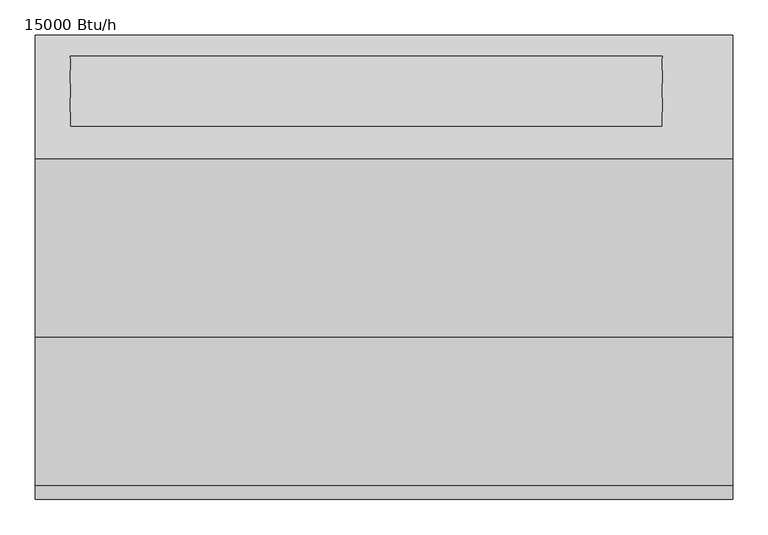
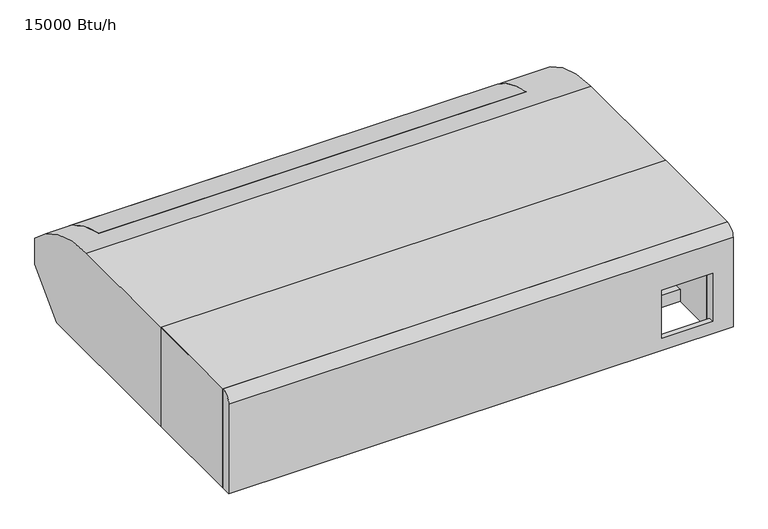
"""IFC4 building model written with IfcOpenShell, lengths in millimetres: proxy geometry, Lennox-VRF-Ceiling_Floor_Mount-VCFA-2P_Series : 15000 Btu/h."""

from ifc_helpers import new_model, si_unit, point, frame, frame_2d, origin, place, context, project, spatial, polyline, circle_curve, trimmed, segment, composite_curve, outline, extrude, faceted_brep, source, transform, mapped, element, save
from ifc_brep_helpers import plane_surface, cylinder_surface, advanced_brep


def proxy_15000_btu_h_a17ee8bb(model_context):
    return source(origin(), model_context, "Body", "SolidModel", [
        faceted_brep([(495.5, 230.0, 206.0), (495.5, 20.0, 206.0), (495.5, 20.0, 0.0), (495.5, 230.0, 0.0), (-495.5, 230.0, 206.0), (-495.5, 230.0, 0.0), (-495.5, 20.0, 0.0), (-495.5, 20.0, 206.0), (355.5, 20.0, 0.0), (355.5, 20.0, 125.0), (455.5, 20.0, 125.0), (455.5, 20.0, 0.0), (455.5, 110.0, 0.0), (355.5, 110.0, 0.0), (355.5, 184.8703415, 125.0), (455.5, 184.8703415, 125.0), (455.5, 110.0, 25.0), (355.5, 110.0, 25.0), (355.5, 184.8703415, 25.0), (455.5, 184.8703415, 25.0)], [[[0, 1, 2, 3]], [[4, 5, 6, 7]], [[1, 0, 4, 7]], [[2, 1, 7, 6, 8, 9, 10, 11]], [[3, 2, 11, 12, 13, 8, 6, 5]], [[0, 3, 5, 4]], [[10, 9, 14, 15]], [[13, 12, 16, 17]], [[14, 9, 8, 13, 17, 18]], [[10, 15, 19, 16, 12, 11]], [[15, 14, 18, 19]], [[19, 18, 17, 16]]]),
        extrude(outline(composite_curve([segment(trimmed(circle_curve(frame_2d((97.0, 440.5)), 6.35), [point((97.0, 434.15))], [point((97.0, 446.85))], False, "CARTESIAN"), True, "CONTINUOUS"), segment(trimmed(circle_curve(frame_2d((97.0, 440.5)), 6.35), [point((97.0, 446.85))], [point((97.0, 434.15))], False, "CARTESIAN"), True, "CONTINUOUS")], self_intersect=False)), frame((0.0, 134.0, 0.0), z_axis=(0.0, 1.0, 0.0), x_axis=(0.0, 0.0, 1.0)), (0.0, 0.0, 1.0), 90.0),
        extrude(outline(composite_curve([segment(trimmed(circle_curve(frame_2d((64.0, 434.5)), 3.175), [point((64.0, 437.675))], [point((64.0, 431.325))], False, "CARTESIAN"), True, "CONTINUOUS"), segment(trimmed(circle_curve(frame_2d((64.0, 434.5)), 3.175), [point((64.0, 431.325))], [point((64.0, 437.675))], False, "CARTESIAN"), True, "CONTINUOUS")], self_intersect=False)), frame((0.0, 98.0, 0.0), z_axis=(0.0, 1.0, 0.0), x_axis=(0.0, 0.0, 1.0)), (0.0, 0.0, 1.0), 125.0),
        advanced_brep(
        [(495.5, 0.0, 186.0), (495.5, 0.0, 0.0), (495.5, 585.0, 0.0), (495.5, 660.0, 76.0), (495.5, 660.0, 130.0), (495.5, 484.7744311, 206.0), (495.5, 20.0, 206.0), (-495.5, 0.0, 186.0), (-495.5, 20.0, 206.0), (-495.5, 484.7744311, 206.0), (-495.5, 660.0, 130.0), (-495.5, 660.0, 76.0), (-495.5, 585.0, 0.0), (-495.5, 0.0, 0.0), (355.5, 0.0, 125.0), (455.5, 0.0, 125.0), (455.5, 0.0, 25.0), (355.5, 0.0, 25.0), (455.5, 110.0, 0.0), (355.5, 110.0, 0.0), (355.5, 10.0, 0.0), (455.5, 10.0, 0.0), (-445.5, 630.0, 157.0746821), (395.5, 630.0, 157.0746821), (395.5, 530.0, 201.700335), (-445.5, 530.0, 201.700335), (395.5, 630.0, 103.0), (-445.5, 630.0, 103.0), (-445.5, 530.0, 103.0), (395.5, 530.0, 103.0), (455.5, 184.8703415, 125.0), (355.5, 184.8703415, 125.0), (355.5, 184.8703415, 25.0), (455.5, 184.8703415, 25.0), (355.5, 10.0, 25.0), (355.5, 110.0, 25.0), (455.5, 10.0, 25.0), (455.5, 110.0, 25.0)],
        [
            (0, 1),
            (1, 2),
            (2, 3),
            (3, 4),
            (4, 5, circle_curve(frame((495.5, 484.7744311, -34.0), z_axis=(1.0, 0.0, 0.0), x_axis=(0.0, 1.0, 0.0)), 240.0)),
            (5, 6),
            (6, 0, circle_curve(frame((495.5, 20.0, 186.0), z_axis=(1.0, 0.0, 0.0), x_axis=(0.0, 1.0, 0.0)), 20.0)),
            (7, 8, circle_curve(frame((-495.5, 20.0, 186.0), z_axis=(-1.0, 0.0, 0.0), x_axis=(0.0, 1.0, 0.0)), 20.0)),
            (8, 9),
            (9, 10, circle_curve(frame((-495.5, 484.7744311, -34.0), z_axis=(-1.0, 0.0, 0.0), x_axis=(0.0, 1.0, 0.0)), 240.0)),
            (10, 11),
            (11, 12),
            (12, 13),
            (13, 7),
            (0, 7),
            (13, 1),
            (14, 15),
            (15, 16),
            (16, 17),
            (17, 14),
            (12, 2),
            (18, 19),
            (19, 20),
            (20, 21),
            (21, 18),
            (11, 3),
            (10, 4),
            (9, 5),
            (22, 23),
            (23, 24, circle_curve(frame((395.5, 484.7744311, -34.0), z_axis=(1.0, 0.0, 0.0), x_axis=(0.0, 1.0, 0.0)), 240.0)),
            (24, 25),
            (25, 22, circle_curve(frame((-445.5, 484.7744311, -34.0), z_axis=(-1.0, 0.0, 0.0), x_axis=(0.0, 1.0, 0.0)), 240.0)),
            (8, 6),
            (26, 27),
            (27, 28),
            (28, 29),
            (29, 26),
            (26, 23),
            (22, 27),
            (25, 28),
            (24, 29),
            (30, 31),
            (31, 32),
            (32, 33),
            (33, 30),
            (14, 31),
            (30, 15),
            (17, 34),
            (34, 20),
            (19, 35),
            (35, 32),
            (16, 36),
            (36, 34),
            (35, 37),
            (37, 33),
            (37, 18),
            (21, 36),
        ],
        [
            plane_surface(frame((495.5, 0.0, 0.0), z_axis=(1.0, 0.0, 0.0), x_axis=(0.0, 0.0, -1.0))),
            plane_surface(frame((-495.5, 0.0, 0.0), z_axis=(-1.0, 0.0, 0.0), x_axis=(0.0, 0.0, 1.0))),
            plane_surface(frame((495.5, 0.0, 186.0), z_axis=(0.0, -1.0, 0.0), x_axis=(-1.0, 0.0, 0.0))),
            plane_surface(frame((495.5, 0.0, 0.0), z_axis=(0.0, 0.0, -1.0), x_axis=(-1.0, 0.0, 0.0))),
            plane_surface(frame((495.5, 585.0, 0.0), z_axis=(0.0, 0.7117739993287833, -0.7024085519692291), x_axis=(-1.0, 0.0, 0.0))),
            plane_surface(frame((495.5, 660.0, 76.0), z_axis=(0.0, 1.0, 0.0), x_axis=(-1.0, 0.0, 0.0))),
            cylinder_surface(frame((-495.5, 484.7744311, -34.0), z_axis=(1.0, 0.0, 0.0), x_axis=(0.0, 1.0, 0.0)), 240.0),
            plane_surface(frame((495.5, 484.7744311, 206.0), z_axis=(0.0, 0.0, 1.0), x_axis=(-1.0, 0.0, 0.0))),
            cylinder_surface(frame((-495.5, 20.0, 186.0), z_axis=(1.0, 0.0, 0.0), x_axis=(0.0, 1.0, 0.0)), 20.0),
            plane_surface(frame((-445.5, 630.0, 103.0), z_axis=(0.0, 0.0, 1.0), x_axis=(1.0, 0.0, 0.0))),
            plane_surface(frame((395.5, 630.0, 206.0), z_axis=(0.0, -1.0, 0.0), x_axis=(0.0, 0.0, -1.0))),
            plane_surface(frame((-445.5, 630.0, 206.0), z_axis=(1.0, 0.0, 0.0), x_axis=(0.0, 0.0, -1.0))),
            plane_surface(frame((-445.5, 530.0, 206.0), z_axis=(0.0, 1.0, 0.0), x_axis=(0.0, 0.0, -1.0))),
            plane_surface(frame((395.5, 530.0, 206.0), z_axis=(-1.0, 0.0, 0.0), x_axis=(0.0, 0.0, -1.0))),
            plane_surface(frame((355.5, 184.8703415, 125.0), z_axis=(0.0, -1.0, 0.0), x_axis=(1.0, 0.0, 0.0))),
            plane_surface(frame((455.5, 0.0, 125.0), z_axis=(0.0, 0.0, -1.0), x_axis=(0.0, 1.0, 0.0))),
            plane_surface(frame((355.5, 0.0, 125.0), z_axis=(1.0, 0.0, 0.0), x_axis=(0.0, 1.0, 0.0))),
            plane_surface(frame((355.5, 0.0, 25.0), z_axis=(0.0, 0.0, 1.0), x_axis=(0.0, 1.0, 0.0))),
            plane_surface(frame((455.5, 0.0, 25.0), z_axis=(-1.0, 0.0, 0.0), x_axis=(0.0, 1.0, 0.0))),
            plane_surface(frame((455.5, 110.0, 125.0), z_axis=(0.0, -1.0, 0.0), x_axis=(0.0, 0.0, -1.0))),
            plane_surface(frame((355.5, 10.0, 125.0), z_axis=(0.0, 1.0, 0.0), x_axis=(0.0, 0.0, -1.0))),
        ],
        [
            (0, [[1, 2, 3, 4, 5, 6, 7]]),
            (1, [[8, 9, 10, 11, 12, 13, 14]]),
            (2, [[-1, 15, -14, 16], [17, 18, 19, 20]]),
            (3, [[-2, -16, -13, 21], [22, 23, 24, 25]]),
            (4, [[-3, -21, -12, 26]]),
            (5, [[-4, -26, -11, 27]]),
            (6, [[-5, -27, -10, 28], [29, 30, 31, 32]]),
            (7, [[-6, -28, -9, 33]]),
            (8, [[-7, -33, -8, -15]]),
            (9, [[34, 35, 36, 37]]),
            (10, [[-34, 38, -29, 39]]),
            (11, [[-35, -39, -32, 40]]),
            (12, [[-36, -40, -31, 41]]),
            (13, [[-37, -41, -30, -38]]),
            (14, [[42, 43, 44, 45]]),
            (15, [[46, -42, 47, -17]]),
            (16, [[-43, -46, -20, 48, 49, -23, 50, 51]]),
            (17, [[-19, 52, 53, -48]]),
            (17, [[-44, -51, 54, 55]]),
            (18, [[-45, -55, 56, -25, 57, -52, -18, -47]]),
            (19, [[-50, -22, -56, -54]]),
            (20, [[-49, -53, -57, -24]]),
        ],
    ),
        extrude(outline(composite_curve([segment(trimmed(circle_curve(frame_2d((484.7744311, -34.0)), 240.0), [point((530.0, 201.700335))], [point((630.0, 157.0746821))], False, "CARTESIAN"), True, "CONTINUOUS"), segment(polyline([(630.0, 157.0746821), (630.0, 103.0), (530.0, 103.0), (530.0, 201.700335)]), True, "CONTINUOUS")], self_intersect=False)), frame((-445.5, 0.0, 0.0), z_axis=(1.0, 0.0, 0.0), x_axis=(0.0, 1.0, 0.0)), (0.0, 0.0, 1.0), 841.0),
    ])


if __name__ == "__main__":
    model = new_model("IFC4")
    model_context = context("Model", 3, world=origin())
    ifc_project = project(units=[si_unit("LENGTHUNIT", "METRE", prefix="MILLI")], contexts=[model_context])
    site = spatial("IfcSite", under=ifc_project)
    building = spatial("IfcBuilding", under=site)
    placement = place(None, origin())
    proxy_15000_btu_h_shape = proxy_15000_btu_h_a17ee8bb(model_context)
    element("IfcBuildingElementProxy", 1, Name="Lennox-VRF-Ceiling_Floor_Mount-VCFA-2P_Series : 15000 Btu/h", ObjectType="Lennox-VRF-Ceiling_Floor_Mount-VCFA-2P_Series : 15000 Btu/h", at=placement, inside=building, context=model_context, shape_type="MappedRepresentation", body=[
        mapped(proxy_15000_btu_h_shape, transform((0.0, 0.0, 0.0), x_axis=(1.0, 0.0, 0.0), y_axis=(0.0, 1.0, 0.0), z_axis=(0.0, 0.0, 1.0))),
    ])
    save(model, "model.ifc")
